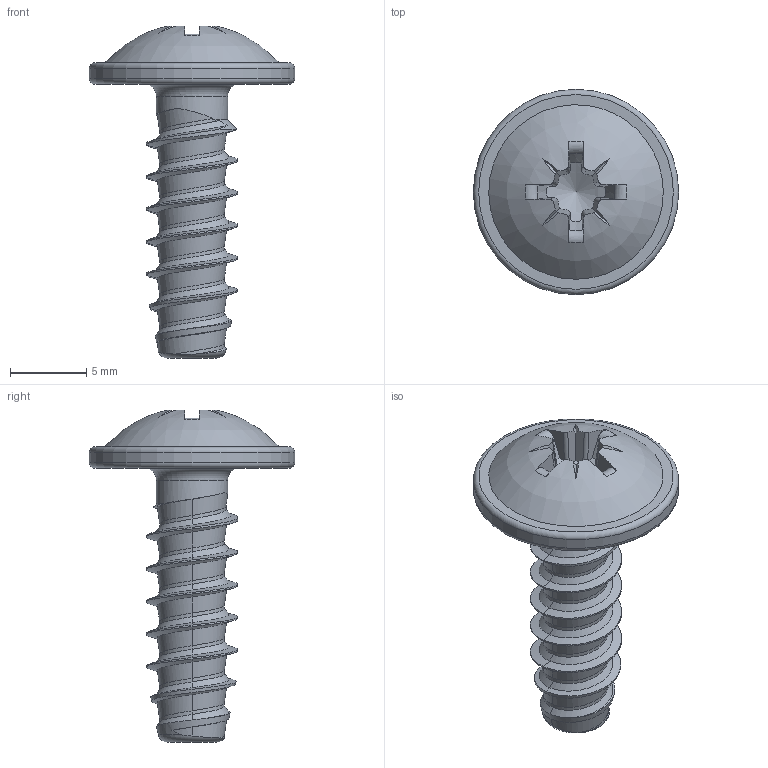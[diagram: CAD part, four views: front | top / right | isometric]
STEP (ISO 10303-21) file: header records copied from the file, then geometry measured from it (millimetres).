
FILE_DESCRIPTION(/* description */ (''),/* implementation_level */ '2;1');
FILE_NAME(/* name */ 'KN6031-STSplus-60x18-Z3.step',/* time_stamp */ '2017-10-09T17:05:20+02:00',/* author */ (''),/* organization */ (''),/* preprocessor_version */ 'ST-DEVELOPER v16',/* originating_system */ 'SIEMENS PLM Software NX 10.0',/* authorisation */ '');
FILE_SCHEMA (('AUTOMOTIVE_DESIGN { 1 0 10303 214 3 1 1 1 }'));
Length unit declared in the file: millimetre
Products named in the file (1): KN6031-STSplus-60x18-Z3
Bounding box: 13.5 x 13.5 x 21.83 mm (x, y, z)
Volume: 621.6 mm3; surface area: 746.4 mm2
Topology: 1 solids, 1 shells, 95 faces, 242 edges, 150 vertices
Faces by surface type: bspline 41, plane 27, cylinder 11, torus 8, cone 7, sphere 1
Full cylindrical faces by diameter (mm): 4.68 x1, 13.5 x1
Entity records: 5194 total; most frequent: CARTESIAN_POINT 3262, ORIENTED_EDGE 456, DIRECTION 275, EDGE_CURVE 228, VERTEX_POINT 145, B_SPLINE_CURVE_WITH_KNOTS 111, EDGE_LOOP 104, AXIS2_PLACEMENT_3D 103
